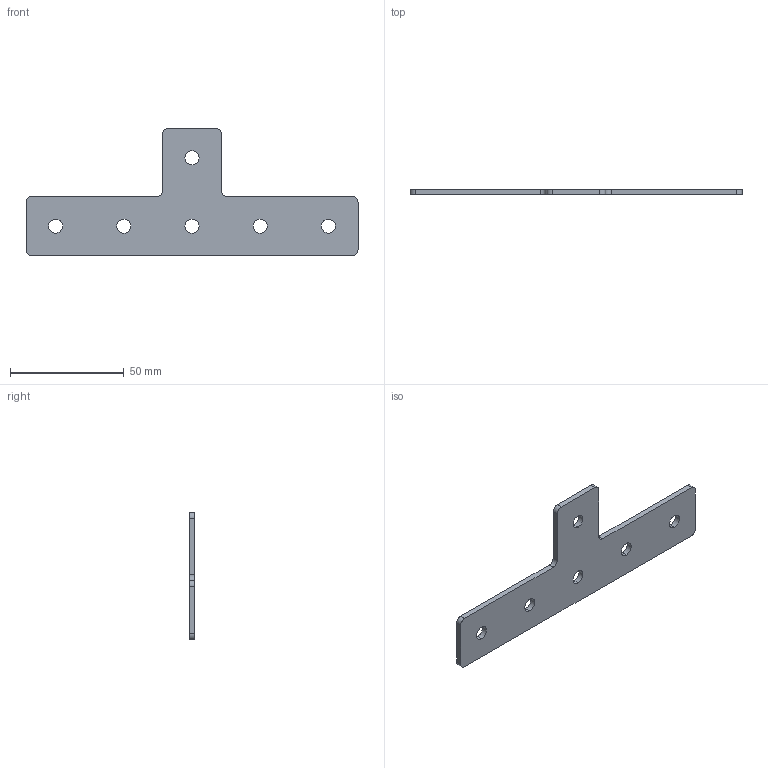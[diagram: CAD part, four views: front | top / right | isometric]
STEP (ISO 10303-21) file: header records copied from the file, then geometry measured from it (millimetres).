
FILE_DESCRIPTION (( 'STEP AP203' ), '1' );
FILE_NAME ('ﾒ-6-30.STEP', '2016-07-22T10:09:54', ( '' ), ( '' ), 'SwSTEP 2.0', 'SolidWorks 2014', '' );
FILE_SCHEMA (( 'CONFIG_CONTROL_DESIGN' ));
Length unit declared in the file: millimetre
Products named in the file (1): ﾒ-6-30
Bounding box: 146 x 2.5 x 56 mm (x, y, z)
Surface area: 10059.7 mm2 (no closed solid volume)
Topology: 0 solids, 1 shells, 30 faces, 84 edges, 56 vertices
Faces by surface type: cylinder 20, plane 10
Entity records: 1089 total; most frequent: DIRECTION 186, CARTESIAN_POINT 171, ORIENTED_EDGE 168, EDGE_CURVE 84, AXIS2_PLACEMENT_3D 71, VERTEX_POINT 56, VECTOR 44, LINE 44
